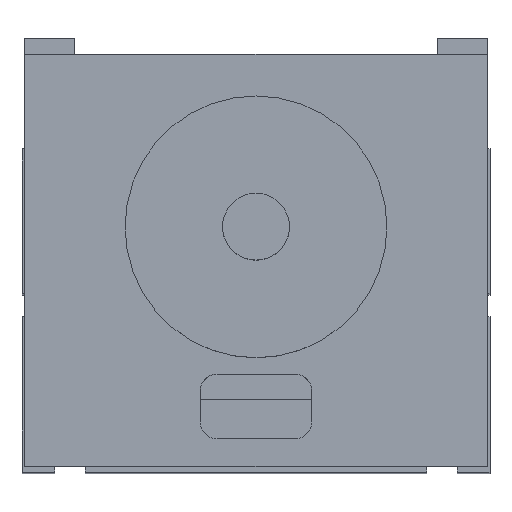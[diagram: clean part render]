
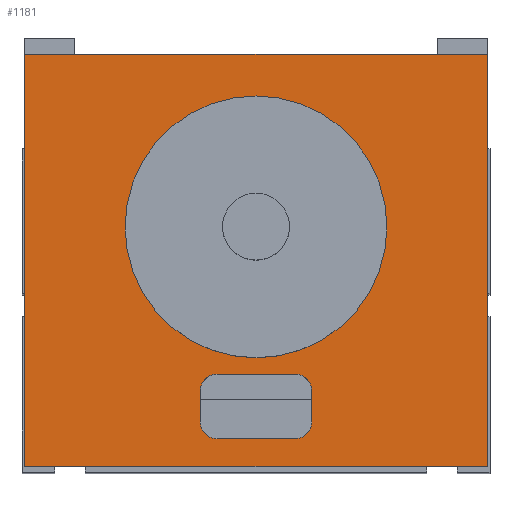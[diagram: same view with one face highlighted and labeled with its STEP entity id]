
A CAD part, top view. The second image highlights one B-rep face of the part: STEP entity #1181.
In plain terms, the highlighted planar face has unit normal (0, 0, 1).
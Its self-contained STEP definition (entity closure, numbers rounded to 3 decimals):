
#1163 = EDGE_CURVE ( 'NONE', #1216, #1219, #2132, .T. ) ;
#1164 = EDGE_CURVE ( 'NONE', #1219, #1220, #2134, .T. ) ;
#1165 = ORIENTED_EDGE ( 'NONE', *, *, #1164, .F. ) ;
#1178 = EDGE_LOOP ( 'NONE', ( #1165, #1190, #1439, #1645, #1278, #1284, #1523, #1602 ) ) ;
#1181 = ADVANCED_FACE ( 'NONE', ( #2137, #1960, #1966 ), #1989, .F. ) ;
#1190 = ORIENTED_EDGE ( 'NONE', *, *, #1163, .F. ) ;
#1194 = VERTEX_POINT ( 'NONE', #1970 ) ;
#1216 = VERTEX_POINT ( 'NONE', #2150 ) ;
#1219 = VERTEX_POINT ( 'NONE', #2155 ) ;
#1220 = VERTEX_POINT ( 'NONE', #2119 ) ;
#1278 = ORIENTED_EDGE ( 'NONE', *, *, #1647, .F. ) ;
#1279 = EDGE_CURVE ( 'NONE', #1194, #1654, #1994, .T. ) ;
#1280 = EDGE_CURVE ( 'NONE', #1282, #1216, #1947, .T. ) ;
#1281 = VERTEX_POINT ( 'NONE', #1952 ) ;
#1282 = VERTEX_POINT ( 'NONE', #1949 ) ;
#1284 = ORIENTED_EDGE ( 'NONE', *, *, #1279, .F. ) ;
#1439 = ORIENTED_EDGE ( 'NONE', *, *, #1280, .F. ) ;
#1523 = ORIENTED_EDGE ( 'NONE', *, *, #1606, .F. ) ;
#1599 = ORIENTED_EDGE ( 'NONE', *, *, #1620, .T. ) ;
#1600 = EDGE_CURVE ( 'NONE', #1805, #1679, #3104, .T. ) ;
#1602 = ORIENTED_EDGE ( 'NONE', *, *, #1795, .F. ) ;
#1603 = VERTEX_POINT ( 'NONE', #3141 ) ;
#1604 = ORIENTED_EDGE ( 'NONE', *, *, #1600, .T. ) ;
#1605 = EDGE_CURVE ( 'NONE', #1679, #1603, #3185, .T. ) ;
#1606 = EDGE_CURVE ( 'NONE', #1852, #1194, #3294, .T. ) ;
#1607 = ORIENTED_EDGE ( 'NONE', *, *, #1905, .F. ) ;
#1611 = ORIENTED_EDGE ( 'NONE', *, *, #2190, .F. ) ;
#1620 = EDGE_CURVE ( 'NONE', #1764, #1805, #3358, .T. ) ;
#1645 = ORIENTED_EDGE ( 'NONE', *, *, #1649, .F. ) ;
#1647 = EDGE_CURVE ( 'NONE', #1654, #1281, #3386, .T. ) ;
#1649 = EDGE_CURVE ( 'NONE', #1281, #1282, #3377, .T. ) ;
#1654 = VERTEX_POINT ( 'NONE', #3389 ) ;
#1679 = VERTEX_POINT ( 'NONE', #3379 ) ;
#1706 = ORIENTED_EDGE ( 'NONE', *, *, #1908, .T. ) ;
#1718 = EDGE_LOOP ( 'NONE', ( #1599, #1604, #1749, #1706 ) ) ;
#1723 = EDGE_LOOP ( 'NONE', ( #1607, #1611 ) ) ;
#1749 = ORIENTED_EDGE ( 'NONE', *, *, #1605, .T. ) ;
#1764 = VERTEX_POINT ( 'NONE', #3431 ) ;
#1795 = EDGE_CURVE ( 'NONE', #1220, #1852, #3560, .T. ) ;
#1805 = VERTEX_POINT ( 'NONE', #3514 ) ;
#1852 = VERTEX_POINT ( 'NONE', #3354 ) ;
#1905 = EDGE_CURVE ( 'NONE', #2198, #2199, #3575, .T. ) ;
#1908 = EDGE_CURVE ( 'NONE', #1603, #1764, #3674, .T. ) ;
#1947 = CIRCLE ( 'NONE', #2068, 3. ) ;
#1949 = CARTESIAN_POINT ( 'NONE',  ( 51.5, 13.6, 30. ) ) ;
#1952 = CARTESIAN_POINT ( 'NONE',  ( 51.5, 8., 30. ) ) ;
#1960 = FACE_OUTER_BOUND ( 'NONE', #1718, .T. ) ;
#1964 = CARTESIAN_POINT ( 'NONE',  ( 0., 74., 30. ) ) ;
#1966 = FACE_BOUND ( 'NONE', #1723, .T. ) ;
#1970 = CARTESIAN_POINT ( 'NONE',  ( 34.5, 5., 30. ) ) ;
#1989 = PLANE ( 'NONE',  #2075 ) ;
#1991 = DIRECTION ( 'NONE',  ( 1., 0., 0. ) ) ;
#1992 = VECTOR ( 'NONE', #1991, 1000. ) ;
#1993 = CARTESIAN_POINT ( 'NONE',  ( 34.5, 5., 30. ) ) ;
#1994 = LINE ( 'NONE', #1993, #1992 ) ;
#1995 = CARTESIAN_POINT ( 'NONE',  ( 48.5, 13.6, 30. ) ) ;
#2005 = DIRECTION ( 'NONE',  ( 0., 0., -1. ) ) ;
#2065 = DIRECTION ( 'NONE',  ( 1., 0., 0. ) ) ;
#2066 = DIRECTION ( 'NONE',  ( 0., 0., 1. ) ) ;
#2068 = AXIS2_PLACEMENT_3D ( 'NONE', #1995, #2066, #2065 ) ;
#2075 = AXIS2_PLACEMENT_3D ( 'NONE', #1964, #2005, #2081 ) ;
#2081 = DIRECTION ( 'NONE',  ( -1., 0., 0. ) ) ;
#2116 = DIRECTION ( 'NONE',  ( -1., 0., 0. ) ) ;
#2117 = DIRECTION ( 'NONE',  ( 0., 0., 1. ) ) ;
#2119 = CARTESIAN_POINT ( 'NONE',  ( 31.5, 13.6, 30. ) ) ;
#2131 = CARTESIAN_POINT ( 'NONE',  ( 34.5, 16.6, 30. ) ) ;
#2132 = LINE ( 'NONE', #2131, #2138 ) ;
#2134 = CIRCLE ( 'NONE', #2161, 3. ) ;
#2135 = DIRECTION ( 'NONE',  ( -1., 0., 0. ) ) ;
#2137 = FACE_BOUND ( 'NONE', #1178, .T. ) ;
#2138 = VECTOR ( 'NONE', #2135, 1000. ) ;
#2150 = CARTESIAN_POINT ( 'NONE',  ( 48.5, 16.6, 30. ) ) ;
#2155 = CARTESIAN_POINT ( 'NONE',  ( 34.5, 16.6, 30. ) ) ;
#2161 = AXIS2_PLACEMENT_3D ( 'NONE', #2185, #2117, #2116 ) ;
#2185 = CARTESIAN_POINT ( 'NONE',  ( 34.5, 13.6, 30. ) ) ;
#2190 = EDGE_CURVE ( 'NONE', #2199, #2198, #3787, .T. ) ;
#2198 = VERTEX_POINT ( 'NONE', #3811 ) ;
#2199 = VERTEX_POINT ( 'NONE', #3810 ) ;
#3103 = CARTESIAN_POINT ( 'NONE',  ( 0., 0., 30. ) ) ;
#3104 = LINE ( 'NONE', #3103, #3108 ) ;
#3107 = DIRECTION ( 'NONE',  ( 1., 0., 0. ) ) ;
#3108 = VECTOR ( 'NONE', #3107, 1000. ) ;
#3141 = CARTESIAN_POINT ( 'NONE',  ( 83., 74., 30. ) ) ;
#3151 = CARTESIAN_POINT ( 'NONE',  ( 83., 0., 30. ) ) ;
#3185 = LINE ( 'NONE', #3151, #3312 ) ;
#3278 = DIRECTION ( 'NONE',  ( 0., 1., 0. ) ) ;
#3294 = CIRCLE ( 'NONE', #3309, 3. ) ;
#3305 = DIRECTION ( 'NONE',  ( 1., 0., 0. ) ) ;
#3306 = DIRECTION ( 'NONE',  ( 0., 0., 1. ) ) ;
#3308 = CARTESIAN_POINT ( 'NONE',  ( 34.5, 8., 30. ) ) ;
#3309 = AXIS2_PLACEMENT_3D ( 'NONE', #3308, #3306, #3305 ) ;
#3312 = VECTOR ( 'NONE', #3278, 1000. ) ;
#3345 = DIRECTION ( 'NONE',  ( 0., -1., 0. ) ) ;
#3354 = CARTESIAN_POINT ( 'NONE',  ( 31.5, 8., 30. ) ) ;
#3355 = DIRECTION ( 'NONE',  ( 0., 1., 0. ) ) ;
#3358 = LINE ( 'NONE', #3368, #3367 ) ;
#3367 = VECTOR ( 'NONE', #3345, 1000. ) ;
#3368 = CARTESIAN_POINT ( 'NONE',  ( 0., 0., 30. ) ) ;
#3377 = LINE ( 'NONE', #3381, #3380 ) ;
#3379 = CARTESIAN_POINT ( 'NONE',  ( 83., 0., 30. ) ) ;
#3380 = VECTOR ( 'NONE', #3355, 1000. ) ;
#3381 = CARTESIAN_POINT ( 'NONE',  ( 51.5, 8., 30. ) ) ;
#3382 = DIRECTION ( 'NONE',  ( -1., 0., 0. ) ) ;
#3383 = DIRECTION ( 'NONE',  ( 0., 0., 1. ) ) ;
#3384 = AXIS2_PLACEMENT_3D ( 'NONE', #3398, #3383, #3382 ) ;
#3386 = CIRCLE ( 'NONE', #3384, 3. ) ;
#3389 = CARTESIAN_POINT ( 'NONE',  ( 48.5, 5., 30. ) ) ;
#3398 = CARTESIAN_POINT ( 'NONE',  ( 48.5, 8., 30. ) ) ;
#3431 = CARTESIAN_POINT ( 'NONE',  ( 0., 74., 30. ) ) ;
#3514 = CARTESIAN_POINT ( 'NONE',  ( 0., 0., 30. ) ) ;
#3515 = DIRECTION ( 'NONE',  ( 0., -1., 0. ) ) ;
#3560 = LINE ( 'NONE', #3561, #3566 ) ;
#3561 = CARTESIAN_POINT ( 'NONE',  ( 31.5, 8., 30. ) ) ;
#3566 = VECTOR ( 'NONE', #3515, 1000. ) ;
#3575 = CIRCLE ( 'NONE', #3610, 23.5 ) ;
#3584 = DIRECTION ( 'NONE',  ( 0., 0., 1. ) ) ;
#3589 = DIRECTION ( 'NONE',  ( -1., 0., 0. ) ) ;
#3590 = VECTOR ( 'NONE', #3589, 1000. ) ;
#3610 = AXIS2_PLACEMENT_3D ( 'NONE', #3672, #3584, #3617 ) ;
#3617 = DIRECTION ( 'NONE',  ( -1., 0., 0. ) ) ;
#3672 = CARTESIAN_POINT ( 'NONE',  ( 41.5, 43., 30. ) ) ;
#3673 = CARTESIAN_POINT ( 'NONE',  ( 0., 74., 30. ) ) ;
#3674 = LINE ( 'NONE', #3673, #3590 ) ;
#3785 = DIRECTION ( 'NONE',  ( -1., 0., 0. ) ) ;
#3786 = AXIS2_PLACEMENT_3D ( 'NONE', #3798, #3791, #3785 ) ;
#3787 = CIRCLE ( 'NONE', #3786, 23.5 ) ;
#3791 = DIRECTION ( 'NONE',  ( 0., 0., 1. ) ) ;
#3798 = CARTESIAN_POINT ( 'NONE',  ( 41.5, 43., 30. ) ) ;
#3810 = CARTESIAN_POINT ( 'NONE',  ( 65., 43., 30. ) ) ;
#3811 = CARTESIAN_POINT ( 'NONE',  ( 18., 43., 30. ) ) ;
